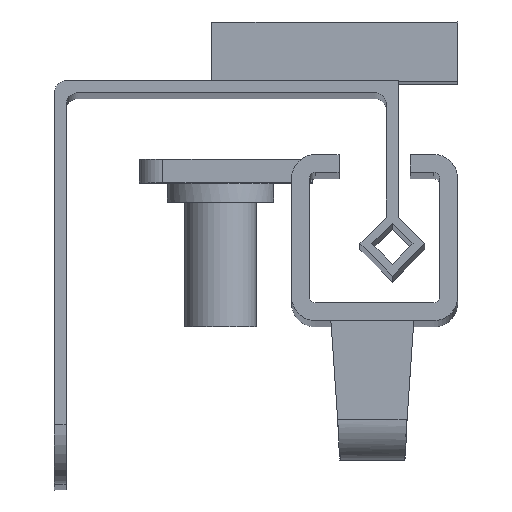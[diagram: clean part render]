
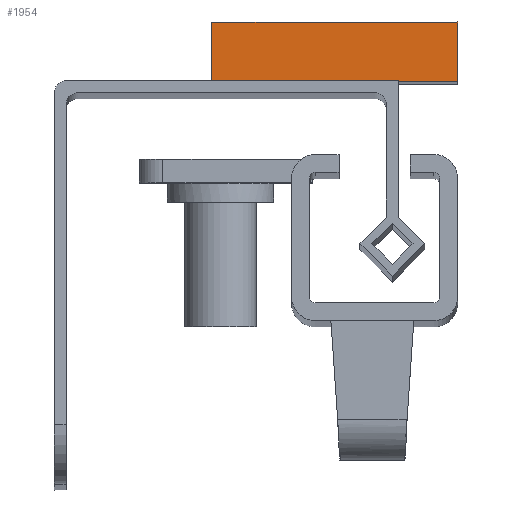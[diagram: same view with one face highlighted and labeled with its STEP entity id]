
A CAD part, top view. The second image highlights one B-rep face of the part: STEP entity #1954.
In plain terms, the highlighted planar face has unit normal (0, 0, 1).
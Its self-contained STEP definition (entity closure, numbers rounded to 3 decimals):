
#308=FACE_OUTER_BOUND('',#428,.T.);
#428=EDGE_LOOP('',(#1597,#1598,#1599,#1600,#1601));
#652=LINE('',#3130,#812);
#654=LINE('',#3134,#814);
#655=LINE('',#3136,#815);
#656=LINE('',#3138,#816);
#657=LINE('',#3139,#817);
#812=VECTOR('',#2496,10.);
#814=VECTOR('',#2500,10.);
#815=VECTOR('',#2501,10.);
#816=VECTOR('',#2502,10.);
#817=VECTOR('',#2503,10.);
#966=VERTEX_POINT('',#3127);
#967=VERTEX_POINT('',#3129);
#968=VERTEX_POINT('',#3133);
#969=VERTEX_POINT('',#3135);
#970=VERTEX_POINT('',#3137);
#1200=EDGE_CURVE('',#966,#967,#652,.T.);
#1202=EDGE_CURVE('',#966,#968,#654,.T.);
#1203=EDGE_CURVE('',#968,#969,#655,.T.);
#1204=EDGE_CURVE('',#969,#970,#656,.T.);
#1205=EDGE_CURVE('',#970,#967,#657,.T.);
#1597=ORIENTED_EDGE('',*,*,#1202,.T.);
#1598=ORIENTED_EDGE('',*,*,#1203,.T.);
#1599=ORIENTED_EDGE('',*,*,#1204,.T.);
#1600=ORIENTED_EDGE('',*,*,#1205,.T.);
#1601=ORIENTED_EDGE('',*,*,#1200,.F.);
#1875=PLANE('',#2100);
#1954=ADVANCED_FACE('',(#308),#1875,.F.);
#2100=AXIS2_PLACEMENT_3D('',#3132,#2498,#2499);
#2496=DIRECTION('',(0.,1.,0.));
#2498=DIRECTION('center_axis',(0.,0.,
-1.));
#2499=DIRECTION('ref_axis',(-1.,0.,0.));
#2500=DIRECTION('',(1.,0.,0.));
#2501=DIRECTION('',(1.,0.,0.));
#2502=DIRECTION('',(0.,1.,0.));
#2503=DIRECTION('',(-1.,0.,0.));
#3127=CARTESIAN_POINT('',(8.526,46.147,253.975));
#3129=CARTESIAN_POINT('',(8.526,51.147,253.975));
#3130=CARTESIAN_POINT('',(8.526,46.147,253.975));
#3132=CARTESIAN_POINT('Origin',(29.248,46.147,253.975));
#3133=CARTESIAN_POINT('',(24.248,46.147,253.975));
#3134=CARTESIAN_POINT('',(12.248,46.147,253.975));
#3135=CARTESIAN_POINT('',(29.248,46.147,253.975));
#3136=CARTESIAN_POINT('',(8.526,46.147,253.975));
#3137=CARTESIAN_POINT('',(29.248,51.147,253.975));
#3138=CARTESIAN_POINT('',(29.248,46.147,253.975));
#3139=CARTESIAN_POINT('',(8.526,51.147,253.975));
